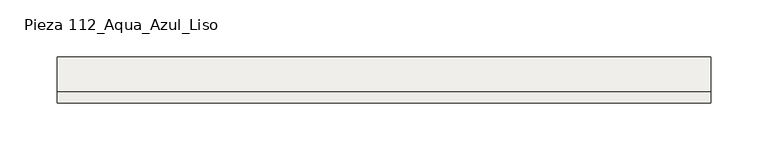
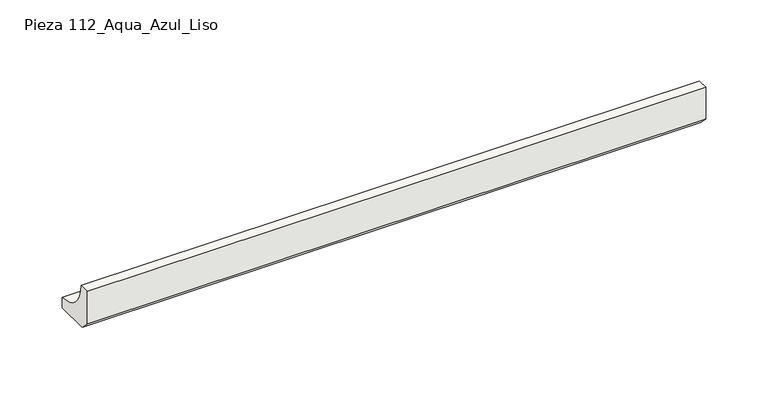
"""IFC4 building model written with IfcOpenShell, lengths in millimetres: slab geometry, ROSA GRES_112 : Pieza 112_Aqua_Azul_Liso."""

from ifc_helpers import new_model, si_unit, point, frame, frame_2d, origin, place, context, project, spatial, polyline, circle_curve, trimmed, segment, composite_curve, outline, extrude, source, transform, mapped, element, save


def pieza_112_aqua_azul_liso_100cf10b(model_context):
    return source(origin(), model_context, "Body", "SweptSolid", [
        extrude(outline(composite_curve([segment(polyline([(0.0, 8.7114978), (0.0, 40.0), (9.9734114, 40.0)]), True, "CONTINUOUS"), segment(trimmed(circle_curve(frame_2d((39.9955547, 39.9955547)), 30.0221435), [point((9.9734114, 40.0))], [point((40.0, 9.9734114))], True, "CARTESIAN"), True, "CONTINUOUS"), segment(polyline([(40.0, 9.9734114), (40.0, 0.0), (8.7114978, 0.0), (0.0, 8.7114978)]), True, "CONTINUOUS")], self_intersect=False)), frame((0.0, 0.0, 0.0), z_axis=(1.0, 0.0, 0.0), x_axis=(0.0, 1.0, 0.0)), (0.0, 0.0, 1.0), 571.0555692),
    ])


if __name__ == "__main__":
    model = new_model("IFC4")
    model_context = context("Model", 3, world=origin())
    ifc_project = project(units=[si_unit("LENGTHUNIT", "METRE", prefix="MILLI")], contexts=[model_context])
    site = spatial("IfcSite", under=ifc_project)
    building = spatial("IfcBuilding", under=site)
    placement = place(None, origin())
    pieza_112_aqua_azul_liso_shape = pieza_112_aqua_azul_liso_100cf10b(model_context)
    element("IfcSlab", 1, ObjectType="ROSA GRES_112 : Pieza 112_Aqua_Azul_Liso", at=placement, inside=building, context=model_context, shape_type="MappedRepresentation", body=[
        mapped(pieza_112_aqua_azul_liso_shape, transform((0.0, 0.0, 0.0), x_axis=(1.0, 0.0, 0.0), y_axis=(0.0, 1.0, 0.0), z_axis=(0.0, 0.0, 1.0))),
    ])
    save(model, "model.ifc")
